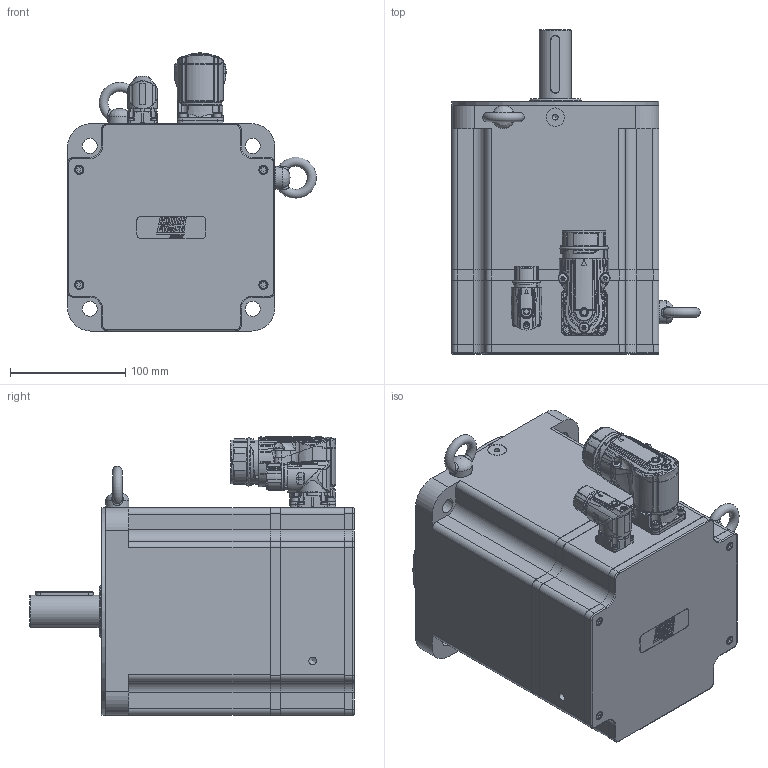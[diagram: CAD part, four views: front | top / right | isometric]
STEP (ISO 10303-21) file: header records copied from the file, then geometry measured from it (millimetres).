
FILE_DESCRIPTION(/* description */ ('Unknown'),/* implementation_level */ '2;1');
FILE_NAME(/* name */ 'TC4-180.7C.X X.X.3.XX.0.X.G3.00.00 Q0B809',/* time_stamp */ '2026-03-10T15:02:31+01:00',/* author */ ('Unknown'),/* organization */ ('Unknown'),/* preprocessor_version */ 'ST-DEVELOPER v19.4',/* originating_system */ 'Solid Edge',/* authorisation */ 'Unknown');
FILE_SCHEMA (('AUTOMOTIVE_DESIGN {1 0 10303 214 3 1 1}'));
Products named in the file (17): Q0B809 7C VUOTO; Calotta TC4-180 V8; 003251040631; 005911000479; 003155002231; 005911000205; 005113000610; 005911000106; 003003199966; 005119001064; 005911000185; Coperchio campana TC4-180; 005911000180; 005321000010; 007117000454; Corpo TC4-180 7C; 007117000452
Assembly tree (33 placements, depth 2):
  Q0B809 7C VUOTO
    Calotta TC4-180 V8
    003251040631
    005911000479  x8
    003155002231
    005911000205  x4
    005113000610
    005911000106
    003003199966
    005119001064
    005911000185  x4
    Coperchio campana TC4-180
    005911000180  x4
    005321000010  x2
    007117000454
    Corpo TC4-180 7C
    007117000452
Bounding box: 215.98 x 281.5 x 241.45 mm (x, y, z)
Volume: 2997655.8 mm3; surface area: 661402.5 mm2
Topology: 35 solids, 36 shells, 3295 faces, 8163 edges, 5063 vertices
Faces by surface type: plane 1177, cylinder 703, bspline 616, cone 350, torus 315, sphere 134
Full cylindrical faces by diameter (mm): 0.5 x1, 1 x17, 1.2 x17, 2 x4, 2.013 x8, 2.5 x4, 3 x5, 3.242 x12, 3.6 x5, 4 x12, 4.134 x24, 4.2 x8, 4.5 x9, 4.7 x4, 4.917 x2, 5 x8, 5.4 x1, 5.5 x9, 5.9 x1, 6.647 x14, 7 x11, 8 x10, 8.376 x2, 9 x4, 10 x3, 15 x1, 15.2 x1, 16 x1, 17.4 x2, 18 x1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
Entity records: 145248 total; most frequent: CARTESIAN_POINT 59834, ORIENTED_EDGE 13776, DIRECTION 11945, EDGE_CURVE 6888, AXIS2_PLACEMENT_3D 4704, VERTEX_POINT 4558, FACE_BOUND 3826, EDGE_LOOP 3799
